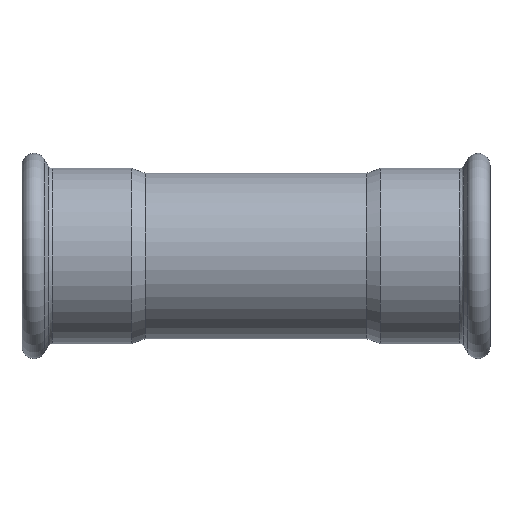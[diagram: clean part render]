
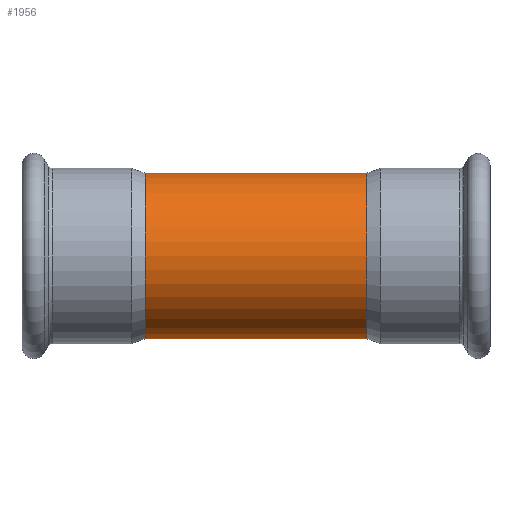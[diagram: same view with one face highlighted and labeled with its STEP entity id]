
A CAD part, front view. The second image highlights one B-rep face of the part: STEP entity #1956.
In plain terms, the highlighted cylindrical face has radius 38.05 mm (diameter 76.1 mm), a full revolution.
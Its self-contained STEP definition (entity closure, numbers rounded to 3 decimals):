
#1767=CARTESIAN_POINT('',(0.,34.882,15.201));
#1768=VERTEX_POINT('',#1767);
#1841=CARTESIAN_POINT('',(0.,34.882,15.201));
#1842=CARTESIAN_POINT('',(0.,34.882,15.201));
#1843=CARTESIAN_POINT('',(0.,34.882,15.201));
#1844=CARTESIAN_POINT('',(0.,34.882,15.201));
#1845=CARTESIAN_POINT('',(0.602,34.882,15.201));
#1846=CARTESIAN_POINT('',(1.81,34.91,15.136));
#1847=CARTESIAN_POINT('',(3.587,35.035,14.847));
#1848=CARTESIAN_POINT('',(5.182,35.218,14.408));
#1849=CARTESIAN_POINT('',(6.3,35.388,13.983));
#1850=CARTESIAN_POINT('',(7.929,35.67,13.259));
#1851=CARTESIAN_POINT('',(9.56,36.028,12.28));
#1852=CARTESIAN_POINT('',(11.338,36.501,10.771));
#1853=CARTESIAN_POINT('',(12.527,36.852,9.506));
#1854=CARTESIAN_POINT('',(13.556,37.18,8.134));
#1855=CARTESIAN_POINT('',(14.429,37.477,6.643));
#1856=CARTESIAN_POINT('',(15.121,37.723,5.066));
#1857=CARTESIAN_POINT('',(15.623,37.908,3.426));
#1858=CARTESIAN_POINT('',(15.931,38.024,1.722));
#1859=CARTESIAN_POINT('',(16.034,38.063,0.009));
#1860=CARTESIAN_POINT('',(15.932,38.024,-1.717));
#1861=CARTESIAN_POINT('',(15.594,37.897,-3.594));
#1862=CARTESIAN_POINT('',(14.937,37.655,-5.608));
#1863=CARTESIAN_POINT('',(13.885,37.288,-7.665));
#1864=CARTESIAN_POINT('',(12.547,36.854,-9.522));
#1865=CARTESIAN_POINT('',(10.918,36.38,-11.189));
#1866=CARTESIAN_POINT('',(9.372,35.991,-12.36));
#1867=CARTESIAN_POINT('',(8.037,35.703,-13.16));
#1868=CARTESIAN_POINT('',(6.629,35.435,-13.871));
#1869=CARTESIAN_POINT('',(4.775,35.153,-14.568));
#1870=CARTESIAN_POINT('',(2.816,34.97,-14.998));
#1871=CARTESIAN_POINT('',(1.216,34.895,-15.171));
#1872=CARTESIAN_POINT('',(-0.39,34.869,-15.23));
#1873=CARTESIAN_POINT('',(-2.002,34.919,-15.115));
#1874=CARTESIAN_POINT('',(-4.363,35.101,-14.69));
#1875=CARTESIAN_POINT('',(-6.662,35.421,-13.92));
#1876=CARTESIAN_POINT('',(-9.056,35.912,-12.599));
#1877=CARTESIAN_POINT('',(-10.922,36.38,-11.186));
#1878=CARTESIAN_POINT('',(-12.273,36.774,-9.803));
#1879=CARTESIAN_POINT('',(-13.21,37.069,-8.601));
#1880=CARTESIAN_POINT('',(-14.059,37.349,-7.325));
#1881=CARTESIAN_POINT('',(-14.759,37.593,-5.955));
#1882=CARTESIAN_POINT('',(-15.289,37.785,-4.528));
#1883=CARTESIAN_POINT('',(-15.709,37.94,-3.057));
#1884=CARTESIAN_POINT('',(-16.014,38.055,-1.161));
#1885=CARTESIAN_POINT('',(-16.016,38.056,0.753));
#1886=CARTESIAN_POINT('',(-15.835,37.988,2.276));
#1887=CARTESIAN_POINT('',(-15.536,37.876,3.77));
#1888=CARTESIAN_POINT('',(-14.939,37.656,5.603));
#1889=CARTESIAN_POINT('',(-14.063,37.35,7.319));
#1890=CARTESIAN_POINT('',(-13.22,37.072,8.587));
#1891=CARTESIAN_POINT('',(-12.043,36.702,10.101));
#1892=CARTESIAN_POINT('',(-10.486,36.259,11.577));
#1893=CARTESIAN_POINT('',(-8.561,35.808,12.879));
#1894=CARTESIAN_POINT('',(-6.992,35.498,13.709));
#1895=CARTESIAN_POINT('',(-5.323,35.234,14.369));
#1896=CARTESIAN_POINT('',(-3.593,35.035,14.846));
#1897=CARTESIAN_POINT('',(-1.811,34.91,15.136));
#1898=CARTESIAN_POINT('',(-0.602,34.882,15.201));
#1899=CARTESIAN_POINT('',(0.,34.882,15.201));
#1900=B_SPLINE_CURVE_WITH_KNOTS('',3,(#1841,#1842,#1843,#1844,#1845,#1846,#1847,#1848,#1849,#1850,#1851,#1852,#1853,#1854,#1855,#1856,#1857,#1858,#1859,#1860,#1861,#1862,#1863,#1864,#1865,#1866,#1867,#1868,#1869,#1870,#1871,#1872,#1873,#1874,#1875,#1876,#1877,#1878,#1879,#1880,#1881,#1882,#1883,#1884,#1885,#1886,#1887,#1888,#1889,#1890,#1891,#1892,#1893,#1894,#1895,#1896,#1897,#1898,#1899),.UNSPECIFIED.,.T.,.U.,(4,3,1,1,1,1,1,1,1,1,1,1,1,1,1,1,1,1,1,1,1,1,1,1,1,1,1,1,1,1,1,1,1,1,1,1,1,1,1,1,1,1,1,1,1,1,1,1,1,1,1,1,1,1,4),(-8.525,-8.525,-8.373,-8.221,-8.069,-7.954,-7.916,-7.612,-7.46,-7.307,-7.155,-7.003,-6.851,-6.698,-6.546,-6.394,-6.242,-6.089,-5.886,-5.683,-5.481,-5.278,-5.075,-4.973,-4.872,-4.669,-4.466,-4.364,-4.263,-4.06,-3.958,-3.654,-3.451,-3.248,-3.045,-2.943,-2.842,-2.639,-2.537,-2.436,-2.233,-2.03,-1.928,-1.827,-1.624,-1.421,-1.319,-1.218,-0.913,-0.761,-0.609,-0.457,-0.304,-0.152,0.),.UNSPECIFIED.);
#1901=EDGE_CURVE('',#1768,#1768,#1900,.T.);
#1926=CARTESIAN_POINT('',(0.,0.,0.0));
#1927=DIRECTION('',(1.0,0.,0.0));
#1928=DIRECTION('',(0.0,1.0,0.0));
#1929=AXIS2_PLACEMENT_3D('',#1926,#1927,#1928);
#1930=CYLINDRICAL_SURFACE('',#1929,38.05);
#1931=CARTESIAN_POINT('',(-50.966,38.05,0.0));
#1932=VERTEX_POINT('',#1931);
#1933=CARTESIAN_POINT('',(-50.966,0.,0.0));
#1934=DIRECTION('',(1.0,0.0,0.0));
#1935=DIRECTION('',(0.0,1.0,0.0));
#1936=AXIS2_PLACEMENT_3D('',#1933,#1934,#1935);
#1937=CIRCLE('',#1936,38.05);
#1938=EDGE_CURVE('',#1932,#1932,#1937,.T.);
#1939=ORIENTED_EDGE('',*,*,#1938,.T.);
#1940=EDGE_LOOP('',(#1939));
#1941=FACE_OUTER_BOUND('',#1940,.T.);
#1942=CARTESIAN_POINT('',(50.966,38.05,0.0));
#1943=VERTEX_POINT('',#1942);
#1944=CARTESIAN_POINT('',(50.966,0.,0.0));
#1945=DIRECTION('',(1.0,0.0,0.0));
#1946=DIRECTION('',(0.0,1.0,0.0));
#1947=AXIS2_PLACEMENT_3D('',#1944,#1945,#1946);
#1948=CIRCLE('',#1947,38.05);
#1949=EDGE_CURVE('',#1943,#1943,#1948,.T.);
#1950=ORIENTED_EDGE('',*,*,#1949,.F.);
#1951=EDGE_LOOP('',(#1950));
#1952=FACE_BOUND('',#1951,.T.);
#1953=ORIENTED_EDGE('',*,*,#1901,.F.);
#1954=EDGE_LOOP('',(#1953));
#1955=FACE_BOUND('',#1954,.T.);
#1956=ADVANCED_FACE('',(#1941,#1952,#1955),#1930,.T.);
